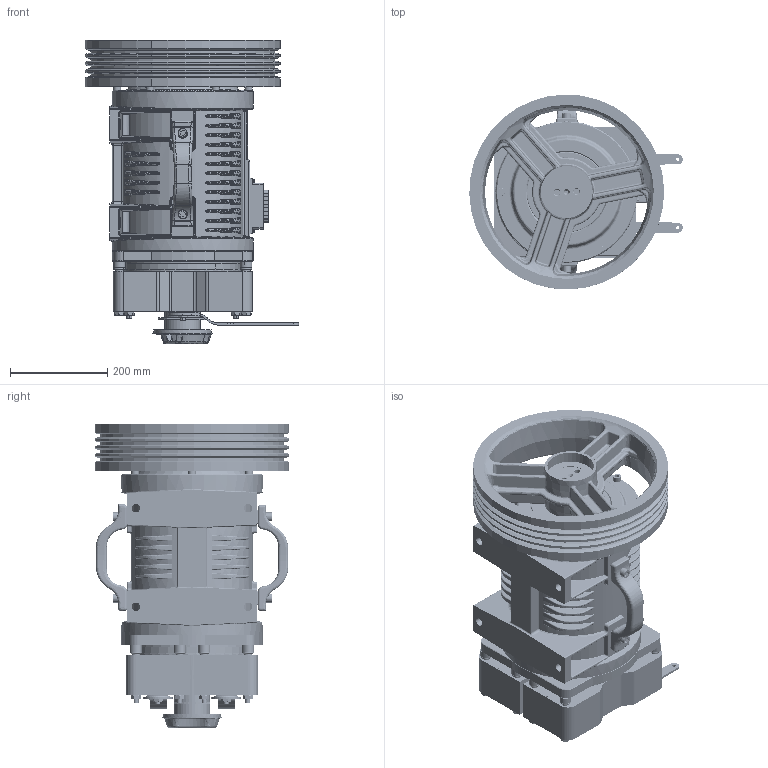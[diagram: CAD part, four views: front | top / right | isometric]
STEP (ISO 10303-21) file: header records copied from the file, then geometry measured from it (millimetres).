
FILE_DESCRIPTION (( 'STEP AP214' ), '1' );
FILE_NAME ('QS24048080.STEP', '2025-12-25T09:08:12', ( '' ), ( '' ), 'SwSTEP 2.0', 'SolidWorks 2023', '' );
FILE_SCHEMA (( 'AUTOMOTIVE_DESIGN' ));
Length unit declared in the file: millimetre
Products named in the file (1): QS24048080
Bounding box: 438 x 399.89 x 622.32 mm (x, y, z)
Volume: 33482164.9 mm3; surface area: 1964775.6 mm2
Topology: 58 solids, 85 shells, 4484 faces, 10717 edges, 6531 vertices
Faces by surface type: cylinder 1322, plane 1247, bspline 1154, cone 515, torus 200, sphere 46
Entity records: 163935 total; most frequent: CARTESIAN_POINT 69982, ORIENTED_EDGE 21190, DIRECTION 17380, EDGE_CURVE 10595, AXIS2_PLACEMENT_3D 6824, VERTEX_POINT 6519, EDGE_LOOP 4926, FACE_OUTER_BOUND 4484
